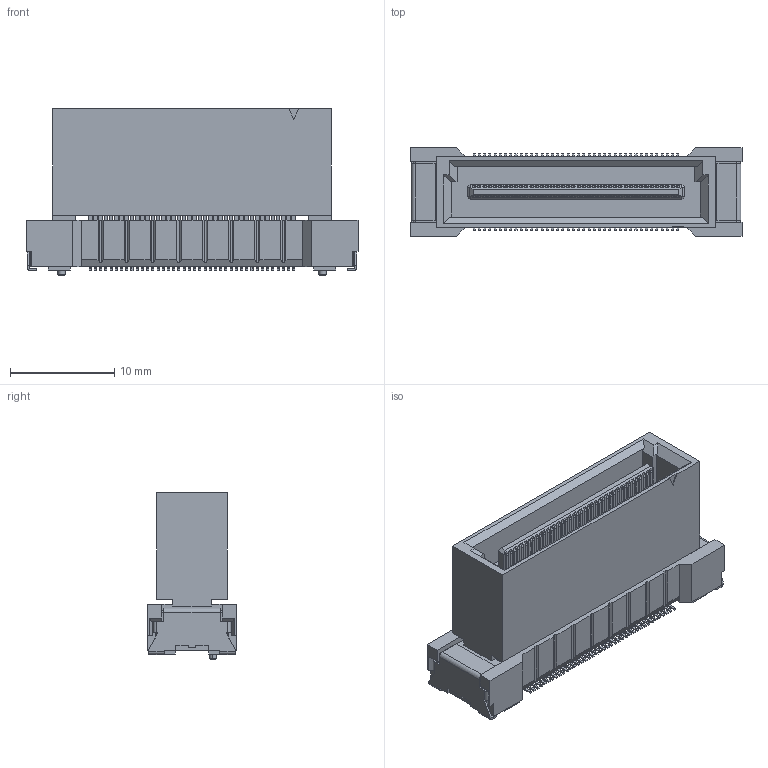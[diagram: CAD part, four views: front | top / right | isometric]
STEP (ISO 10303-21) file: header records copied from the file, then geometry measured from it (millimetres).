
FILE_DESCRIPTION(('Creo Elements/Direct Modeling STEP Export'),'2;1');
FILE_NAME('P3E104_DT01-080FS-10-T.stp','2022-02-25T17:24:27',(''),(''),'Creo Elements/Direct Modeling STEP processor for AP214 (Solid Model)','Creo Elements/Direct Modeling 20.4A 18-Oct-2021 (C) Parametric Technology GmbH','');
FILE_SCHEMA(('AUTOMOTIVE_DESIGN { 1 0 10303 214 1 1 1 1 }'));
Products named in the file (2): P3E104_DT01-080FS-10-T
Assembly tree (1 placements, depth 2):
  P3E104_DT01-080FS-10-T
    P3E104_DT01-080FS-10-T
Bounding box: 31.8 x 8.5 x 15.95 mm (x, y, z)
Volume: 2492.9 mm3; surface area: 2459.6 mm2
Topology: 1 solids, 1 shells, 2327 faces, 6535 edges, 4292 vertices
Faces by surface type: plane 2133, cylinder 190, cone 4
Entity records: 72402 total; most frequent: ORIENTED_EDGE 13070, CARTESIAN_POINT 12808, DIRECTION 11137, EDGE_CURVE 6535, VECTOR 5895, LINE 5895, VERTEX_POINT 4292, AXIS2_PLACEMENT_3D 2621
